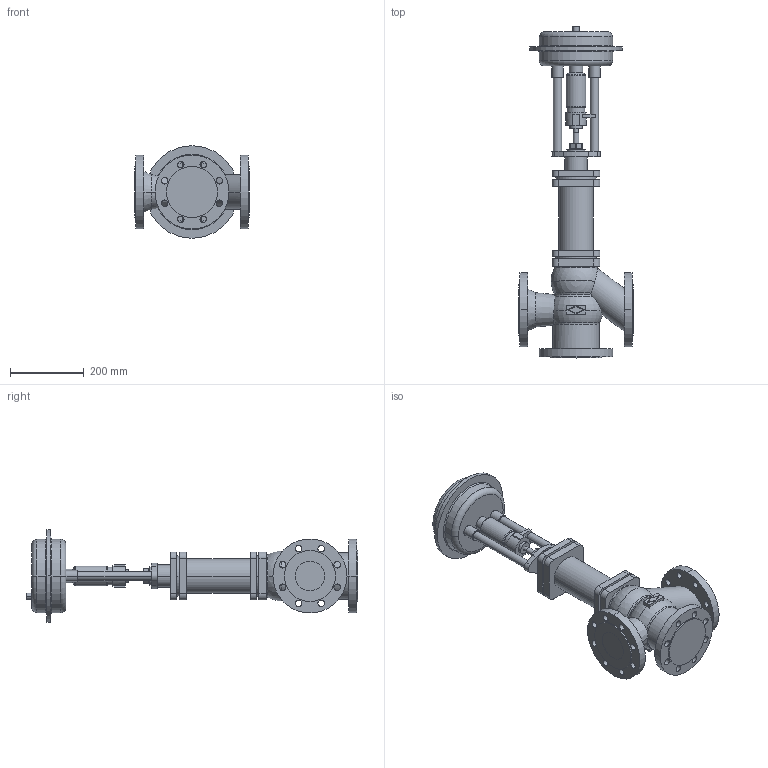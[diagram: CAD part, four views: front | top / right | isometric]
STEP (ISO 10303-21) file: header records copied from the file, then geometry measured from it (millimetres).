
FILE_DESCRIPTION(('OneSpaceDesigner STEP Export'),'2;1');
FILE_NAME('c000000725.stp','2006-09-20T11:15:11',(''),(''),'OneSpace Designer STEP processor for AP214 (Solid Model)','OneSpace Designer 13.20A 18-Aug-2005 (C) CoCreate Software GmbH','');
FILE_SCHEMA(('AUTOMOTIVE_DESIGN { 1 0 10303 214 1 1 1 1 }'));
Length unit declared in the file: millimetre
Products named in the file (2): 1; 2
Bounding box: 310 x 897.7 x 250 mm (x, y, z)
Volume: 12317046.2 mm3; surface area: 749628 mm2
Topology: 2 solids, 2 shells, 277 faces, 695 edges, 452 vertices
Faces by surface type: cylinder 138, plane 101, torus 26, cone 8, sphere 4
Entity records: 7638 total; most frequent: CARTESIAN_POINT 1483, ORIENTED_EDGE 1382, DIRECTION 1130, EDGE_CURVE 691, VERTEX_POINT 452, AXIS2_PLACEMENT_3D 412, EDGE_LOOP 359, VECTOR 306
